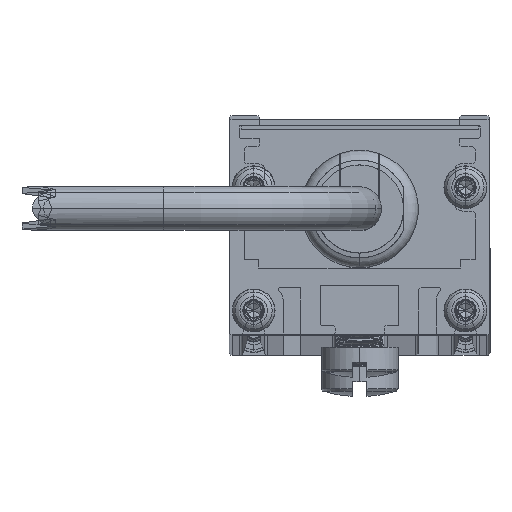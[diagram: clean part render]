
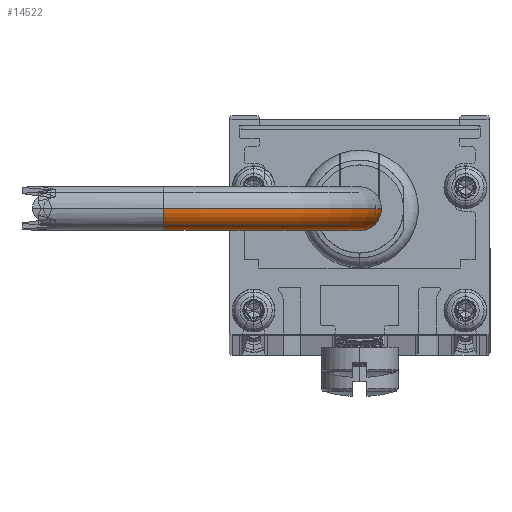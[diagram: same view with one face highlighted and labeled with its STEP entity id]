
A CAD part, top view. The second image highlights one B-rep face of the part: STEP entity #14522.
In plain terms, the highlighted toroidal (fillet/blend) face has major radius 25.4 mm and minor radius 2.845 mm.
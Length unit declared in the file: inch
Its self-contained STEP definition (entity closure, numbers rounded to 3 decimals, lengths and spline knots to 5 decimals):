
#517 = CIRCLE ( 'NONE', #15471, 0.112 ) ;
#992 = CARTESIAN_POINT ( 'NONE',  ( 0., 0., -1. ) ) ;
#1015 = CIRCLE ( 'NONE', #18654, 1.112 ) ;
#1137 = DIRECTION ( 'NONE',  ( 1., 0., 0. ) ) ;
#1459 = EDGE_CURVE ( 'NONE', #17764, #4611, #15467, .T. ) ;
#1857 = CARTESIAN_POINT ( 'NONE',  ( -0.112, 0., -1. ) ) ;
#2606 = DIRECTION ( 'NONE',  ( 0., -1., 0. ) ) ;
#3290 = CIRCLE ( 'NONE', #18202, 0.888 ) ;
#4611 = VERTEX_POINT ( 'NONE', #12693 ) ;
#6606 = DIRECTION ( 'NONE',  ( 0., 0., 1. ) ) ;
#6887 = DIRECTION ( 'NONE',  ( 0., 0., 1. ) ) ;
#7074 = DIRECTION ( 'NONE',  ( 0., -1., 0. ) ) ;
#7215 = EDGE_CURVE ( 'NONE', #18774, #17764, #1015, .T. ) ;
#7555 = DIRECTION ( 'NONE',  ( 0., -1., 0. ) ) ;
#7664 = EDGE_CURVE ( 'NONE', #18774, #18583, #517, .T. ) ;
#7683 = EDGE_LOOP ( 'NONE', ( #8371, #11185, #11861, #17826 ) ) ;
#7777 = AXIS2_PLACEMENT_3D ( 'NONE', #17774, #7555, #10711 ) ;
#8371 = ORIENTED_EDGE ( 'NONE', *, *, #7664, .F. ) ;
#8587 = CARTESIAN_POINT ( 'NONE',  ( 1., 0., -1. ) ) ;
#8624 = CARTESIAN_POINT ( 'NONE',  ( 0.112, 0., -1. ) ) ;
#10278 = EDGE_CURVE ( 'NONE', #18583, #4611, #3290, .T. ) ;
#10590 = TOROIDAL_SURFACE ( 'NONE', #7777, 1., 0.112 ) ;
#10711 = DIRECTION ( 'NONE',  ( 0., 0., -1. ) ) ;
#10769 = CARTESIAN_POINT ( 'NONE',  ( 1., 0., -2.112 ) ) ;
#11185 = ORIENTED_EDGE ( 'NONE', *, *, #7215, .T. ) ;
#11861 = ORIENTED_EDGE ( 'NONE', *, *, #1459, .T. ) ;
#12299 = DIRECTION ( 'NONE',  ( 1., 0., 0. ) ) ;
#12693 = CARTESIAN_POINT ( 'NONE',  ( 1., 0., -1.888 ) ) ;
#14116 = CARTESIAN_POINT ( 'NONE',  ( 1., 0., -1. ) ) ;
#14522 = ADVANCED_FACE ( 'NONE', ( #18605 ), #10590, .T. ) ;
#14536 = DIRECTION ( 'NONE',  ( 1., 0., 0. ) ) ;
#15467 = CIRCLE ( 'NONE', #17176, 0.112 ) ;
#15471 = AXIS2_PLACEMENT_3D ( 'NONE', #992, #6606, #12299 ) ;
#17176 = AXIS2_PLACEMENT_3D ( 'NONE', #17336, #18619, #6887 ) ;
#17336 = CARTESIAN_POINT ( 'NONE',  ( 1., 0., -2. ) ) ;
#17764 = VERTEX_POINT ( 'NONE', #10769 ) ;
#17774 = CARTESIAN_POINT ( 'NONE',  ( 1., 0., -1. ) ) ;
#17826 = ORIENTED_EDGE ( 'NONE', *, *, #10278, .F. ) ;
#18202 = AXIS2_PLACEMENT_3D ( 'NONE', #8587, #7074, #14536 ) ;
#18583 = VERTEX_POINT ( 'NONE', #8624 ) ;
#18605 = FACE_OUTER_BOUND ( 'NONE', #7683, .T. ) ;
#18619 = DIRECTION ( 'NONE',  ( -1., 0., 0. ) ) ;
#18654 = AXIS2_PLACEMENT_3D ( 'NONE', #14116, #2606, #1137 ) ;
#18774 = VERTEX_POINT ( 'NONE', #1857 ) ;
